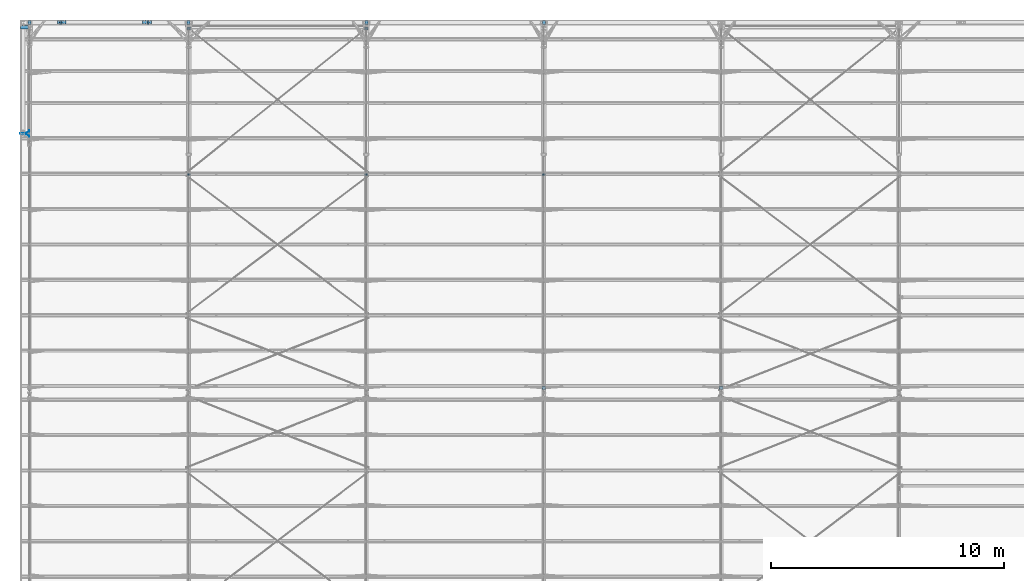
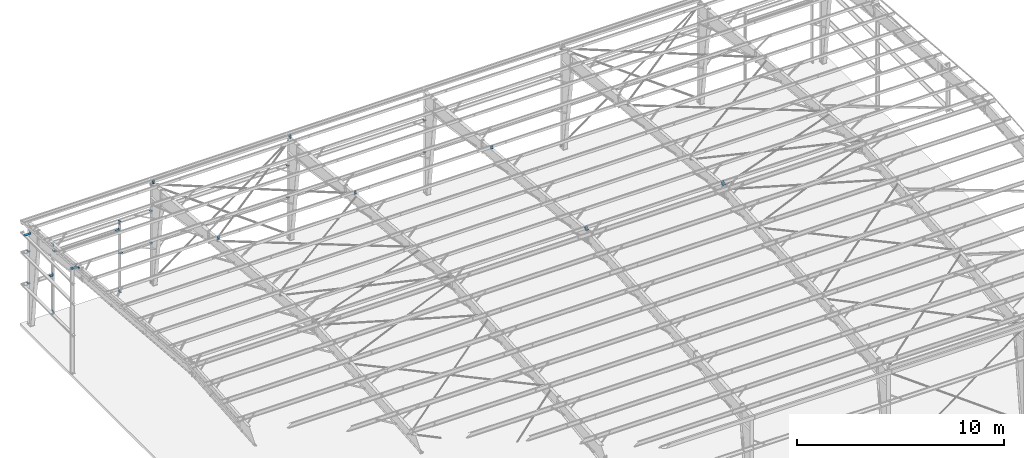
# One storey, part 183 of 185: 26 beams, 26 elements without a shape of their own.
"""IFC2X3 building model written with IfcOpenShell, lengths in millimetres."""

from ifc_helpers import new_model, si_unit, frame, origin_with_axes, place, context, subcontext, project, spatial, faceted_brep, material, type_object, element, aggregate, save


model = new_model("IFC2X3")

# Units and contexts
model_context = context("Model", 3, precision=1e-05, world=origin_with_axes())
body_context = subcontext(model_context, "Body", "Model", "MODEL_VIEW")
ifc_project = project(units=[si_unit("LENGTHUNIT", "METRE", prefix="MILLI"), si_unit("AREAUNIT", "SQUARE_METRE"), si_unit("VOLUMEUNIT", "CUBIC_METRE"), si_unit("MASSUNIT", "GRAM", prefix="KILO"), si_unit("TIMEUNIT", "SECOND"), si_unit("PLANEANGLEUNIT", "RADIAN"), si_unit("SOLIDANGLEUNIT", "STERADIAN"), si_unit("THERMODYNAMICTEMPERATUREUNIT", "DEGREE_CELSIUS"), si_unit("LUMINOUSINTENSITYUNIT", "LUMEN")], contexts=[model_context])

# Site, building, storey
site_placement = place(None, origin_with_axes())
site = spatial("IfcSite", under=ifc_project, at=site_placement, Name="Undefined", CompositionType="ELEMENT")
building_placement = place(site_placement, origin_with_axes())
building = spatial("IfcBuilding", under=site, at=building_placement, Name="Undefined", CompositionType="ELEMENT")
storey_placement = place(building_placement, origin_with_axes())
storey = spatial("IfcBuildingStorey", under=building, at=storey_placement, Name="Undefined", CompositionType="ELEMENT", Elevation=0.0)

# Assembly, beam
assembly_1_placement = place(storey_placement, origin_with_axes())
assembly_1 = element("IfcElementAssembly", 1, at=assembly_1_placement, inside=storey, Name="Steel Assembly", AssemblyPlace="NOTDEFINED", PredefinedType="RIGID_FRAME")
ifc_material = material(Name="STEEL/55")
beam_type_1 = type_object("IfcBeamType", Name="FL1/4\"X5\"", PredefinedType="NOTDEFINED")
beam_1_placement = place(assembly_1_placement, frame((11.9063, 27122.31685, 6158.65019549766), z_axis=(0.0, 0.0, 1.0), x_axis=(1.0, 0.0, 0.0)))
beam_1 = element("IfcBeam", 2, at=beam_1_placement, type_object=beam_type_1, material=ifc_material, Name="Special Clip", ObjectType="FL1/4\"X5\"", context=body_context, shape_type="Brep", body=[
    faceted_brep([(0.0, -3.17499999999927, -63.5), (0.0, -3.17499999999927, 63.5), (0.0, 3.17499999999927, 63.5), (0.0, 3.17499999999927, -63.5), (163.512496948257, 3.17499999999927, 63.5), (163.512496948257, 3.17499999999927, -63.5), (162.33626755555, -3.17499999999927, -63.5000000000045), (162.336267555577, -3.17499999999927, 63.4999999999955), (392.143432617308, -84.5343963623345, 63.4999999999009), (392.143432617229, -84.5343963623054, -63.5000000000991), (385.793432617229, -88.899589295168, -63.5000000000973), (385.793432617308, -88.8995892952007, 63.4999999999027), (392.143432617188, -138.112506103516, 63.5), (392.143432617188, -138.112506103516, -63.5), (385.793432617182, -138.112506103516, 63.5), (385.793432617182, -138.112506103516, -63.5)], [[[0, 1, 2, 3]], [[3, 2, 4, 5]], [[1, 0, 6, 7]], [[5, 4, 8, 9]], [[7, 6, 10, 11]], [[9, 8, 12, 13]], [[8, 4, 2, 1, 7, 11, 14, 12]], [[11, 10, 15, 14]], [[10, 6, 0, 3, 5, 9, 13, 15]], [[14, 15, 13, 12]]]),
])
aggregate(assembly_1, [beam_1])

assembly_2_placement = place(storey_placement, origin_with_axes())
assembly_2 = element("IfcElementAssembly", 3, at=assembly_2_placement, inside=storey, Name="Steel Assembly", AssemblyPlace="NOTDEFINED", PredefinedType="RIGID_FRAME")
beam_2_placement = place(assembly_2_placement, frame((11.9063, 27132.08315, 6158.65019549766), z_axis=(0.0, 0.0, 1.0), x_axis=(1.0, 0.0, 0.0)))
beam_2 = element("IfcBeam", 4, at=beam_2_placement, type_object=beam_type_1, material=ifc_material, Name="Special Clip", ObjectType="FL1/4\"X5\"", context=body_context, shape_type="Brep", body=[
    faceted_brep([(0.0, -3.17499999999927, -63.5), (0.0, -3.17499999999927, 63.5), (0.0, 3.17499999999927, 63.5), (0.0, 3.17499999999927, -63.5), (162.333783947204, 3.17499999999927, 63.5000000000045), (162.333783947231, 3.17499999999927, -63.4999999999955), (163.512496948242, -3.17499999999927, -63.5), (163.512496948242, -3.17499999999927, 63.5), (385.793432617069, 89.0944569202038, 63.5000000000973), (385.793432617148, 89.0944569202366, -63.4999999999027), (392.143432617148, 84.7327987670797, -63.4999999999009), (392.143432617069, 84.7327987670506, 63.5000000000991), (385.793432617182, 138.112506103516, 63.5), (385.793432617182, 138.112506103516, -63.5), (392.143432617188, 138.112506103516, 63.5), (392.143432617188, 138.112506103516, -63.5)], [[[0, 1, 2, 3]], [[3, 2, 4, 5]], [[1, 0, 6, 7]], [[5, 4, 8, 9]], [[7, 6, 10, 11]], [[9, 8, 12, 13]], [[8, 4, 2, 1, 7, 11, 14, 12]], [[11, 10, 15, 14]], [[10, 6, 0, 3, 5, 9, 13, 15]], [[14, 15, 13, 12]]]),
])
aggregate(assembly_2, [beam_2])

assembly_3_placement = place(storey_placement, origin_with_axes())
assembly_3 = element("IfcElementAssembly", 5, at=assembly_3_placement, inside=storey, Name="Steel Assembly", AssemblyPlace="NOTDEFINED", PredefinedType="RIGID_FRAME")
beam_type_2 = type_object("IfcBeamType", Name="PL1/8\"X5 7/8\"", PredefinedType="NOTDEFINED")
beam_3_placement = place(assembly_3_placement, frame((5453.0625, 31902.4, 184.15), z_axis=(0.0, -1.0, 0.0), x_axis=(0.0, 0.0, -1.0)))
beam_3 = element("IfcBeam", 6, at=beam_3_placement, type_object=beam_type_2, material=ifc_material, Name="UNIVERSAL AC-1 CLIP", ObjectType="PL1/8\"X5 7/8\"", context=body_context, shape_type="Brep", body=[
    faceted_brep([(0.0, -1.58749999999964, -74.6125), (0.0, -1.58749999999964, 74.6125), (0.0, 1.58749999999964, 74.6125), (0.0, 1.58749999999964, -74.6125), (180.974993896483, 1.58750000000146, 74.6124999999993), (180.974993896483, 1.58750000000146, -74.6124999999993), (184.149993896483, -1.58750000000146, -74.6124999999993), (184.149993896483, -1.58750000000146, 74.6124999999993), (180.974993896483, 74.6124969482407, 74.6124999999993), (180.974993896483, 74.6124969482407, -74.6124999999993), (184.149993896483, 74.6124969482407, 74.6124999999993), (184.149993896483, 74.6124969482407, -74.6124999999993)], [[[0, 1, 2, 3]], [[3, 2, 4, 5]], [[1, 0, 6, 7]], [[5, 4, 8, 9]], [[4, 2, 1, 7, 10, 8]], [[7, 6, 11, 10]], [[6, 0, 3, 5, 9, 11]], [[10, 11, 9, 8]]]),
])
aggregate(assembly_3, [beam_3])

assembly_4_placement = place(storey_placement, origin_with_axes())
assembly_4 = element("IfcElementAssembly", 7, at=assembly_4_placement, inside=storey, Name="Steel Assembly", AssemblyPlace="NOTDEFINED", PredefinedType="RIGID_FRAME")
beam_4_placement = place(assembly_4_placement, frame((1785.9375, 31902.4, 184.15), z_axis=(0.0, -1.0, 0.0), x_axis=(0.0, 0.0, -1.0)))
beam_4 = element("IfcBeam", 8, at=beam_4_placement, type_object=beam_type_2, material=ifc_material, Name="UNIVERSAL AC-1 CLIP", ObjectType="PL1/8\"X5 7/8\"", context=body_context, shape_type="Brep", body=[
    faceted_brep([(0.0, -1.58749999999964, -74.6125), (0.0, -1.58749999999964, 74.6125), (0.0, 1.58749999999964, 74.6125), (0.0, 1.58749999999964, -74.6125), (184.149993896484, 1.58749999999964, 74.6125), (184.149993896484, 1.58749999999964, -74.6125), (180.974993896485, -1.58749999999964, -74.6125), (180.974993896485, -1.58749999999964, 74.6125), (184.149993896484, -74.6124969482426, 74.6125), (184.149993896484, -74.6124969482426, -74.6125), (180.974993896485, -74.6124969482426, 74.6125), (180.974993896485, -74.6124969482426, -74.6125)], [[[0, 1, 2, 3]], [[3, 2, 4, 5]], [[1, 0, 6, 7]], [[5, 4, 8, 9]], [[4, 2, 1, 7, 10, 8]], [[7, 6, 11, 10]], [[6, 0, 3, 5, 9, 11]], [[10, 11, 9, 8]]]),
])
aggregate(assembly_4, [beam_4])

assembly_5_placement = place(storey_placement, origin_with_axes())
assembly_5 = element("IfcElementAssembly", 9, at=assembly_5_placement, inside=storey, Name="Steel Assembly", AssemblyPlace="NOTDEFINED", PredefinedType="RIGID_FRAME")
beam_5_placement = place(assembly_5_placement, frame((1785.93249969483, 31902.4, 3979.85999996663), z_axis=(0.0, 1.0, 0.0), x_axis=(0.0, 0.0, 1.0)))
beam_5 = element("IfcBeam", 10, at=beam_5_placement, type_object=beam_type_2, material=ifc_material, Name="UNIVERSAL AC-1 CLIP", ObjectType="PL1/8\"X5 7/8\"", context=body_context, shape_type="Brep", body=[
    faceted_brep([(0.0, -1.58749999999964, -74.6125), (0.0, -1.58749999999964, 74.6125), (0.0, 1.58749999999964, 74.6125), (0.0, 1.58749999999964, -74.6125), (184.149993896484, 1.58749999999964, 74.6125), (184.149993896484, 1.58749999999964, -74.6125), (180.974993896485, -1.58749999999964, -74.6125), (180.974993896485, -1.58749999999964, 74.6125), (184.149993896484, -74.6124969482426, 74.6125), (184.149993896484, -74.6124969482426, -74.6125), (180.974993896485, -74.6124969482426, 74.6125), (180.974993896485, -74.6124969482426, -74.6125)], [[[0, 1, 2, 3]], [[3, 2, 4, 5]], [[1, 0, 6, 7]], [[5, 4, 8, 9]], [[4, 2, 1, 7, 10, 8]], [[7, 6, 11, 10]], [[6, 0, 3, 5, 9, 11]], [[10, 11, 9, 8]]]),
])
aggregate(assembly_5, [beam_5])

assembly_6_placement = place(storey_placement, origin_with_axes())
assembly_6 = element("IfcElementAssembly", 11, at=assembly_6_placement, inside=storey, Name="Steel Assembly", AssemblyPlace="NOTDEFINED", PredefinedType="RIGID_FRAME")
beam_6_placement = place(assembly_6_placement, frame((1974.85, 31902.4, 3662.36750030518), z_axis=(0.0, -1.0, 0.0), x_axis=(-1.0, 0.0, 0.0)))
beam_6 = element("IfcBeam", 12, at=beam_6_placement, type_object=beam_type_2, material=ifc_material, Name="UNIVERSAL AC-1 CLIP", ObjectType="PL1/8\"X5 7/8\"", context=body_context, shape_type="Brep", body=[
    faceted_brep([(0.0, -1.58749999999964, -74.6125), (0.0, -1.58749999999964, 74.6125), (0.0, 1.58749999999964, 74.6125), (0.0, 1.58749999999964, -74.6125), (184.149993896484, 1.58749999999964, 74.6125), (184.149993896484, 1.58749999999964, -74.6125), (180.974993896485, -1.58749999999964, -74.6125), (180.974993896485, -1.58749999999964, 74.6125), (184.149993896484, -74.6124969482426, 74.6125), (184.149993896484, -74.6124969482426, -74.6125), (180.974993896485, -74.6124969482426, 74.6125), (180.974993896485, -74.6124969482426, -74.6125)], [[[0, 1, 2, 3]], [[3, 2, 4, 5]], [[1, 0, 6, 7]], [[5, 4, 8, 9]], [[4, 2, 1, 7, 10, 8]], [[7, 6, 11, 10]], [[6, 0, 3, 5, 9, 11]], [[10, 11, 9, 8]]]),
])
aggregate(assembly_6, [beam_6])

assembly_7_placement = place(storey_placement, origin_with_axes())
assembly_7 = element("IfcElementAssembly", 13, at=assembly_7_placement, inside=storey, Name="Steel Assembly", AssemblyPlace="NOTDEFINED", PredefinedType="RIGID_FRAME")
beam_7_placement = place(assembly_7_placement, frame((1603.36999969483, 31902.4, 2289.17750003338), z_axis=(0.0, 1.0, 0.0), x_axis=(1.0, 0.0, 0.0)))
beam_7 = element("IfcBeam", 14, at=beam_7_placement, type_object=beam_type_2, material=ifc_material, Name="UNIVERSAL AC-1 CLIP", ObjectType="PL1/8\"X5 7/8\"", context=body_context, shape_type="Brep", body=[
    faceted_brep([(0.0, -1.58749999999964, -74.6125), (0.0, -1.58749999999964, 74.6125), (0.0, 1.58749999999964, 74.6125), (0.0, 1.58749999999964, -74.6125), (184.149993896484, 1.58749999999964, 74.6125), (184.149993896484, 1.58749999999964, -74.6125), (180.974993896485, -1.58749999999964, -74.6125), (180.974993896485, -1.58749999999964, 74.6125), (184.149993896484, -74.6124969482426, 74.6125), (184.149993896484, -74.6124969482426, -74.6125), (180.974993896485, -74.6124969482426, 74.6125), (180.974993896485, -74.6124969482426, -74.6125)], [[[0, 1, 2, 3]], [[3, 2, 4, 5]], [[1, 0, 6, 7]], [[5, 4, 8, 9]], [[4, 2, 1, 7, 10, 8]], [[7, 6, 11, 10]], [[6, 0, 3, 5, 9, 11]], [[10, 11, 9, 8]]]),
])
aggregate(assembly_7, [beam_7])

assembly_8_placement = place(storey_placement, origin_with_axes())
assembly_8 = element("IfcElementAssembly", 15, at=assembly_8_placement, inside=storey, Name="Steel Assembly", AssemblyPlace="NOTDEFINED", PredefinedType="RIGID_FRAME")
beam_8_placement = place(assembly_8_placement, frame((5635.63000030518, 31902.4, 2289.17750003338), z_axis=(0.0, -1.0, 0.0), x_axis=(-1.0, 0.0, 0.0)))
beam_8 = element("IfcBeam", 16, at=beam_8_placement, type_object=beam_type_2, material=ifc_material, Name="UNIVERSAL AC-1 CLIP", ObjectType="PL1/8\"X5 7/8\"", context=body_context, shape_type="Brep", body=[
    faceted_brep([(0.0, -1.58749999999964, -74.6125), (0.0, -1.58749999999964, 74.6125), (0.0, 1.58749999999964, 74.6125), (0.0, 1.58749999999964, -74.6125), (184.149993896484, 1.58749999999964, 74.6125), (184.149993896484, 1.58749999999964, -74.6125), (180.974993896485, -1.58749999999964, -74.6125), (180.974993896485, -1.58749999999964, 74.6125), (184.149993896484, -74.6124969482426, 74.6125), (184.149993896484, -74.6124969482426, -74.6125), (180.974993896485, -74.6124969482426, 74.6125), (180.974993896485, -74.6124969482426, -74.6125)], [[[0, 1, 2, 3]], [[3, 2, 4, 5]], [[1, 0, 6, 7]], [[5, 4, 8, 9]], [[4, 2, 1, 7, 10, 8]], [[7, 6, 11, 10]], [[6, 0, 3, 5, 9, 11]], [[10, 11, 9, 8]]]),
])
aggregate(assembly_8, [beam_8])

assembly_9_placement = place(storey_placement, origin_with_axes())
assembly_9 = element("IfcElementAssembly", 17, at=assembly_9_placement, inside=storey, Name="Steel Assembly", AssemblyPlace="NOTDEFINED", PredefinedType="RIGID_FRAME")
beam_9_placement = place(assembly_9_placement, frame((5264.15, 31902.4, 3662.36750030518), z_axis=(0.0, 1.0, 0.0), x_axis=(1.0, 0.0, 0.0)))
beam_9 = element("IfcBeam", 18, at=beam_9_placement, type_object=beam_type_2, material=ifc_material, Name="UNIVERSAL AC-1 CLIP", ObjectType="PL1/8\"X5 7/8\"", context=body_context, shape_type="Brep", body=[
    faceted_brep([(0.0, -1.58749999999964, -74.6125), (0.0, -1.58749999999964, 74.6125), (0.0, 1.58749999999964, 74.6125), (0.0, 1.58749999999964, -74.6125), (184.149993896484, 1.58749999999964, 74.6125), (184.149993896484, 1.58749999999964, -74.6125), (180.974993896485, -1.58749999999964, -74.6125), (180.974993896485, -1.58749999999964, 74.6125), (184.149993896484, -74.6124969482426, 74.6125), (184.149993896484, -74.6124969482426, -74.6125), (180.974993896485, -74.6124969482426, 74.6125), (180.974993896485, -74.6124969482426, -74.6125)], [[[0, 1, 2, 3]], [[3, 2, 4, 5]], [[1, 0, 6, 7]], [[5, 4, 8, 9]], [[4, 2, 1, 7, 10, 8]], [[7, 6, 11, 10]], [[6, 0, 3, 5, 9, 11]], [[10, 11, 9, 8]]]),
])
aggregate(assembly_9, [beam_9])

assembly_10_placement = place(storey_placement, origin_with_axes())
assembly_10 = element("IfcElementAssembly", 19, at=assembly_10_placement, inside=storey, Name="Steel Assembly", AssemblyPlace="NOTDEFINED", PredefinedType="RIGID_FRAME")
beam_10_placement = place(assembly_10_placement, frame((5453.06750030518, 31902.4, 3979.85999996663), z_axis=(0.0, -1.0, 0.0), x_axis=(0.0, 0.0, 1.0)))
beam_10 = element("IfcBeam", 20, at=beam_10_placement, type_object=beam_type_2, material=ifc_material, Name="UNIVERSAL AC-1 CLIP", ObjectType="PL1/8\"X5 7/8\"", context=body_context, shape_type="Brep", body=[
    faceted_brep([(0.0, -1.58749999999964, -74.6125), (0.0, -1.58749999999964, 74.6125), (0.0, 1.58749999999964, 74.6125), (0.0, 1.58749999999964, -74.6125), (184.149993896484, 1.58749999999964, 74.6125), (184.149993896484, 1.58749999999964, -74.6125), (180.974993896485, -1.58749999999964, -74.6125), (180.974993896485, -1.58749999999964, 74.6125), (184.149993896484, -74.6124969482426, 74.6125), (184.149993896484, -74.6124969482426, -74.6125), (180.974993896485, -74.6124969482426, 74.6125), (180.974993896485, -74.6124969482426, -74.6125)], [[[0, 1, 2, 3]], [[3, 2, 4, 5]], [[1, 0, 6, 7]], [[5, 4, 8, 9]], [[4, 2, 1, 7, 10, 8]], [[7, 6, 11, 10]], [[6, 0, 3, 5, 9, 11]], [[10, 11, 9, 8]]]),
])
aggregate(assembly_10, [beam_10])

assembly_11_placement = place(storey_placement, origin_with_axes())
assembly_11 = element("IfcElementAssembly", 21, at=assembly_11_placement, inside=storey, Name="Steel Assembly", AssemblyPlace="NOTDEFINED", PredefinedType="RIGID_FRAME")
beam_type_3 = type_object("IfcBeamType", Name="FL3/16\"X5\"", PredefinedType="NOTDEFINED")
beam_11_placement = place(assembly_11_placement, frame((406.4, 31803.18125, 2362.2), z_axis=(1.0, 0.0, 0.0), x_axis=(0.0, 0.0, -1.0)))
beam_11 = element("IfcBeam", 22, at=beam_11_placement, type_object=beam_type_3, material=ifc_material, Name="UNIVERSAL AC-1 CLIP", ObjectType="FL3/16\"X5\"", context=body_context, shape_type="Brep", body=[
    faceted_brep([(0.0, -2.38124999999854, -63.5), (0.0, -2.38124999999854, 63.5), (0.0, 2.38124999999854, 63.5), (0.0, 2.38124999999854, -63.5), (71.4374969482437, 2.38124999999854, 63.5), (71.4374969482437, 2.38124999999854, -63.5), (76.1999969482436, -2.38124999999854, -63.5), (76.1999969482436, -2.38124999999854, 63.5), (71.4374969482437, 181.768743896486, 63.5), (71.4374969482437, 181.768743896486, -63.5), (76.1999969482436, 181.768743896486, 63.5), (76.1999969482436, 181.768743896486, -63.5)], [[[0, 1, 2, 3]], [[3, 2, 4, 5]], [[1, 0, 6, 7]], [[5, 4, 8, 9]], [[4, 2, 1, 7, 10, 8]], [[7, 6, 11, 10]], [[6, 0, 3, 5, 9, 11]], [[10, 11, 9, 8]]]),
])
aggregate(assembly_11, [beam_11])

assembly_12_placement = place(storey_placement, origin_with_axes())
assembly_12 = element("IfcElementAssembly", 23, at=assembly_12_placement, inside=storey, Name="Steel Assembly", AssemblyPlace="NOTDEFINED", PredefinedType="RIGID_FRAME")
beam_12_placement = place(assembly_12_placement, frame((7238.99999999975, 25331.8752214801, 6450.49431404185), z_axis=(-1.0, 0.0, 0.0), x_axis=(0.0, 0.996545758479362, -0.0830454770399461)))
beam_12 = element("IfcBeam", 24, at=beam_12_placement, type_object=beam_type_3, material=ifc_material, Name="UNIVERSAL AC-1 CLIP", ObjectType="FL3/16\"X5\"", context=body_context, shape_type="Brep", body=[
    faceted_brep([(1.03973434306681e-08, -2.3799999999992, -63.5), (1.03973434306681e-08, -2.3799999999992, 63.5), (-1.0393705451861e-08, 2.38000000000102, 63.5), (-1.0393705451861e-08, 2.38000000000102, -63.5), (69.8499976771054, 2.38000030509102, 63.5), (69.8499976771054, 2.38000030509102, -63.5), (65.0899976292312, -2.37999971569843, -63.5), (65.0899976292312, -2.37999971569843, 63.5), (69.8499958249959, -181.770005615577, 63.5), (69.8499958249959, -181.770005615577, -63.5), (65.0899958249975, -181.770005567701, 63.5), (65.0899958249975, -181.770005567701, -63.5)], [[[0, 1, 2, 3]], [[3, 2, 4, 5]], [[1, 0, 6, 7]], [[5, 4, 8, 9]], [[4, 2, 1, 7, 10, 8]], [[7, 6, 11, 10]], [[6, 0, 3, 5, 9, 11]], [[10, 11, 9, 8]]]),
])
aggregate(assembly_12, [beam_12])

assembly_13_placement = place(storey_placement, origin_with_axes())
assembly_13 = element("IfcElementAssembly", 25, at=assembly_13_placement, inside=storey, Name="Steel Assembly", AssemblyPlace="NOTDEFINED", PredefinedType="RIGID_FRAME")
beam_13_placement = place(assembly_13_placement, frame((14859.0000000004, 25331.875221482, 6450.49431404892), z_axis=(-1.0, 0.0, 0.0), x_axis=(0.0, 0.996545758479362, -0.0830454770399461)))
beam_13 = element("IfcBeam", 26, at=beam_13_placement, type_object=beam_type_3, material=ifc_material, Name="UNIVERSAL AC-1 CLIP", ObjectType="FL3/16\"X5\"", context=body_context, shape_type="Brep", body=[
    faceted_brep([(1.03973434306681e-08, -2.3799999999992, -63.5), (1.03973434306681e-08, -2.3799999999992, 63.5), (-1.0393705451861e-08, 2.38000000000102, 63.5), (-1.0393705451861e-08, 2.38000000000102, -63.5), (69.8499976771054, 2.38000030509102, 63.5), (69.8499976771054, 2.38000030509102, -63.5), (65.0899976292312, -2.37999971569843, -63.5), (65.0899976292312, -2.37999971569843, 63.5), (69.8499958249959, -181.770005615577, 63.5), (69.8499958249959, -181.770005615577, -63.5), (65.0899958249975, -181.770005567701, 63.5), (65.0899958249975, -181.770005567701, -63.5)], [[[0, 1, 2, 3]], [[3, 2, 4, 5]], [[1, 0, 6, 7]], [[5, 4, 8, 9]], [[4, 2, 1, 7, 10, 8]], [[7, 6, 11, 10]], [[6, 0, 3, 5, 9, 11]], [[10, 11, 9, 8]]]),
])
aggregate(assembly_13, [beam_13])

assembly_14_placement = place(storey_placement, origin_with_axes())
assembly_14 = element("IfcElementAssembly", 27, at=assembly_14_placement, inside=storey, Name="Steel Assembly", AssemblyPlace="NOTDEFINED", PredefinedType="RIGID_FRAME")
beam_14_placement = place(assembly_14_placement, frame((22478.9999999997, 25331.8752214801, 6450.49431404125), z_axis=(-1.0, 0.0, 0.0), x_axis=(0.0, 0.996545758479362, -0.0830454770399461)))
beam_14 = element("IfcBeam", 28, at=beam_14_placement, type_object=beam_type_3, material=ifc_material, Name="UNIVERSAL AC-1 CLIP", ObjectType="FL3/16\"X5\"", context=body_context, shape_type="Brep", body=[
    faceted_brep([(1.03973434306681e-08, -2.3799999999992, -63.5), (1.03973434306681e-08, -2.3799999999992, 63.5), (-1.0393705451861e-08, 2.38000000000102, 63.5), (-1.0393705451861e-08, 2.38000000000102, -63.5), (69.8499976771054, 2.38000030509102, 63.5), (69.8499976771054, 2.38000030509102, -63.5), (65.0899976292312, -2.37999971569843, -63.5), (65.0899976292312, -2.37999971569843, 63.5), (69.8499958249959, -181.770005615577, 63.5), (69.8499958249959, -181.770005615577, -63.5), (65.0899958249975, -181.770005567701, 63.5), (65.0899958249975, -181.770005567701, -63.5)], [[[0, 1, 2, 3]], [[3, 2, 4, 5]], [[1, 0, 6, 7]], [[5, 4, 8, 9]], [[4, 2, 1, 7, 10, 8]], [[7, 6, 11, 10]], [[6, 0, 3, 5, 9, 11]], [[10, 11, 9, 8]]]),
])
aggregate(assembly_14, [beam_14])

assembly_15_placement = place(storey_placement, origin_with_axes())
assembly_15 = element("IfcElementAssembly", 29, at=assembly_15_placement, inside=storey, Name="Steel Assembly", AssemblyPlace="NOTDEFINED", PredefinedType="RIGID_FRAME")
beam_15_placement = place(assembly_15_placement, frame((406.4, 31803.18125, 4241.8), z_axis=(1.0, 0.0, 0.0), x_axis=(0.0, 0.0, -1.0)))
beam_15 = element("IfcBeam", 30, at=beam_15_placement, type_object=beam_type_3, material=ifc_material, Name="UNIVERSAL AC-1 CLIP", ObjectType="FL3/16\"X5\"", context=body_context, shape_type="Brep", body=[
    faceted_brep([(0.0, -2.38124999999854, -63.5), (0.0, -2.38124999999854, 63.5), (0.0, 2.38124999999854, 63.5), (0.0, 2.38124999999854, -63.5), (71.4374969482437, 2.38124999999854, 63.5), (71.4374969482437, 2.38124999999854, -63.5), (76.1999969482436, -2.38124999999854, -63.5), (76.1999969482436, -2.38124999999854, 63.5), (71.4374969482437, 181.768743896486, 63.5), (71.4374969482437, 181.768743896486, -63.5), (76.1999969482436, 181.768743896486, 63.5), (76.1999969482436, 181.768743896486, -63.5)], [[[0, 1, 2, 3]], [[3, 2, 4, 5]], [[1, 0, 6, 7]], [[5, 4, 8, 9]], [[4, 2, 1, 7, 10, 8]], [[7, 6, 11, 10]], [[6, 0, 3, 5, 9, 11]], [[10, 11, 9, 8]]]),
])
aggregate(assembly_15, [beam_15])

assembly_16_placement = place(storey_placement, origin_with_axes())
assembly_16 = element("IfcElementAssembly", 31, at=assembly_16_placement, inside=storey, Name="Steel Assembly", AssemblyPlace="NOTDEFINED", PredefinedType="RIGID_FRAME")
beam_16_placement = place(assembly_16_placement, frame((7239.0, 31803.18125, 2355.85), z_axis=(-1.0, 0.0, 0.0), x_axis=(0.0, 0.0, -1.0)))
beam_16 = element("IfcBeam", 32, at=beam_16_placement, type_object=beam_type_3, material=ifc_material, Name="UNIVERSAL AC-1 CLIP", ObjectType="FL3/16\"X5\"", context=body_context, shape_type="Brep", body=[
    faceted_brep([(0.0, -2.38124999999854, -63.5), (0.0, -2.38124999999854, 63.5), (0.0, 2.38124999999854, 63.5), (0.0, 2.38124999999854, -63.5), (69.8499984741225, 2.38124999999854, 63.5), (69.8499984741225, 2.38124999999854, -63.5), (65.0874984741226, -2.38124999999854, -63.5), (65.0874984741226, -2.38124999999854, 63.5), (69.8499984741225, -181.768743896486, 63.5), (69.8499984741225, -181.768743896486, -63.5), (65.0874984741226, -181.768743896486, 63.5), (65.0874984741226, -181.768743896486, -63.5)], [[[0, 1, 2, 3]], [[3, 2, 4, 5]], [[1, 0, 6, 7]], [[5, 4, 8, 9]], [[4, 2, 1, 7, 10, 8]], [[7, 6, 11, 10]], [[6, 0, 3, 5, 9, 11]], [[10, 11, 9, 8]]]),
])
aggregate(assembly_16, [beam_16])

assembly_17_placement = place(storey_placement, origin_with_axes())
assembly_17 = element("IfcElementAssembly", 33, at=assembly_17_placement, inside=storey, Name="Steel Assembly", AssemblyPlace="NOTDEFINED", PredefinedType="RIGID_FRAME")
beam_17_placement = place(assembly_17_placement, frame((7239.0, 31803.18125, 4235.45), z_axis=(-1.0, 0.0, 0.0), x_axis=(0.0, 0.0, -1.0)))
beam_17 = element("IfcBeam", 34, at=beam_17_placement, type_object=beam_type_3, material=ifc_material, Name="UNIVERSAL AC-1 CLIP", ObjectType="FL3/16\"X5\"", context=body_context, shape_type="Brep", body=[
    faceted_brep([(0.0, -2.38124999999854, -63.5), (0.0, -2.38124999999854, 63.5), (0.0, 2.38124999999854, 63.5), (0.0, 2.38124999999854, -63.5), (69.8499984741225, 2.38124999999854, 63.5), (69.8499984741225, 2.38124999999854, -63.5), (65.0874984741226, -2.38124999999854, -63.5), (65.0874984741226, -2.38124999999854, 63.5), (69.8499984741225, -181.768743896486, 63.5), (69.8499984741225, -181.768743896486, -63.5), (65.0874984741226, -181.768743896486, 63.5), (65.0874984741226, -181.768743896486, -63.5)], [[[0, 1, 2, 3]], [[3, 2, 4, 5]], [[1, 0, 6, 7]], [[5, 4, 8, 9]], [[4, 2, 1, 7, 10, 8]], [[7, 6, 11, 10]], [[6, 0, 3, 5, 9, 11]], [[10, 11, 9, 8]]]),
])
aggregate(assembly_17, [beam_17])

assembly_18_placement = place(storey_placement, origin_with_axes())
assembly_18 = element("IfcElementAssembly", 35, at=assembly_18_placement, inside=storey, Name="Steel Assembly", AssemblyPlace="NOTDEFINED", PredefinedType="RIGID_FRAME")
beam_18_placement = place(assembly_18_placement, frame((14859.0, 31803.18125, 4235.45), z_axis=(-1.0, 0.0, 0.0), x_axis=(0.0, 0.0, -1.0)))
beam_18 = element("IfcBeam", 36, at=beam_18_placement, type_object=beam_type_3, material=ifc_material, Name="UNIVERSAL AC-1 CLIP", ObjectType="FL3/16\"X5\"", context=body_context, shape_type="Brep", body=[
    faceted_brep([(0.0, -2.38124999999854, -63.5), (0.0, -2.38124999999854, 63.5), (0.0, 2.38124999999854, 63.5), (0.0, 2.38124999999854, -63.5), (69.8499984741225, 2.38124999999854, 63.5), (69.8499984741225, 2.38124999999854, -63.5), (65.0874984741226, -2.38124999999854, -63.5), (65.0874984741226, -2.38124999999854, 63.5), (69.8499984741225, -181.768743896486, 63.5), (69.8499984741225, -181.768743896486, -63.5), (65.0874984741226, -181.768743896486, 63.5), (65.0874984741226, -181.768743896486, -63.5)], [[[0, 1, 2, 3]], [[3, 2, 4, 5]], [[1, 0, 6, 7]], [[5, 4, 8, 9]], [[4, 2, 1, 7, 10, 8]], [[7, 6, 11, 10]], [[6, 0, 3, 5, 9, 11]], [[10, 11, 9, 8]]]),
])
aggregate(assembly_18, [beam_18])

assembly_19_placement = place(storey_placement, origin_with_axes())
assembly_19 = element("IfcElementAssembly", 37, at=assembly_19_placement, inside=storey, Name="Steel Assembly", AssemblyPlace="NOTDEFINED", PredefinedType="RIGID_FRAME")
beam_19_placement = place(assembly_19_placement, frame((14859.0, 31803.18125, 2355.85), z_axis=(-1.0, 0.0, 0.0), x_axis=(0.0, 0.0, -1.0)))
beam_19 = element("IfcBeam", 38, at=beam_19_placement, type_object=beam_type_3, material=ifc_material, Name="UNIVERSAL AC-1 CLIP", ObjectType="FL3/16\"X5\"", context=body_context, shape_type="Brep", body=[
    faceted_brep([(0.0, -2.38124999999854, -63.5), (0.0, -2.38124999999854, 63.5), (0.0, 2.38124999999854, 63.5), (0.0, 2.38124999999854, -63.5), (69.8499984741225, 2.38124999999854, 63.5), (69.8499984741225, 2.38124999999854, -63.5), (65.0874984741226, -2.38124999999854, -63.5), (65.0874984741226, -2.38124999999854, 63.5), (69.8499984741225, -181.768743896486, 63.5), (69.8499984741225, -181.768743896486, -63.5), (65.0874984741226, -181.768743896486, 63.5), (65.0874984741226, -181.768743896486, -63.5)], [[[0, 1, 2, 3]], [[3, 2, 4, 5]], [[1, 0, 6, 7]], [[5, 4, 8, 9]], [[4, 2, 1, 7, 10, 8]], [[7, 6, 11, 10]], [[6, 0, 3, 5, 9, 11]], [[10, 11, 9, 8]]]),
])
aggregate(assembly_19, [beam_19])

assembly_20_placement = place(storey_placement, origin_with_axes())
assembly_20 = element("IfcElementAssembly", 39, at=assembly_20_placement, inside=storey, Name="Steel Assembly", AssemblyPlace="NOTDEFINED", PredefinedType="RIGID_FRAME")
beam_20_placement = place(assembly_20_placement, frame((22479.0, 31803.18125, 2355.85), z_axis=(-1.0, 0.0, 0.0), x_axis=(0.0, 0.0, -1.0)))
beam_20 = element("IfcBeam", 40, at=beam_20_placement, type_object=beam_type_3, material=ifc_material, Name="UNIVERSAL AC-1 CLIP", ObjectType="FL3/16\"X5\"", context=body_context, shape_type="Brep", body=[
    faceted_brep([(0.0, -2.38124999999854, -63.5), (0.0, -2.38124999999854, 63.5), (0.0, 2.38124999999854, 63.5), (0.0, 2.38124999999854, -63.5), (69.8499984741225, 2.38124999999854, 63.5), (69.8499984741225, 2.38124999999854, -63.5), (65.0874984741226, -2.38124999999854, -63.5), (65.0874984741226, -2.38124999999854, 63.5), (69.8499984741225, -181.768743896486, 63.5), (69.8499984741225, -181.768743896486, -63.5), (65.0874984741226, -181.768743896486, 63.5), (65.0874984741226, -181.768743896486, -63.5)], [[[0, 1, 2, 3]], [[3, 2, 4, 5]], [[1, 0, 6, 7]], [[5, 4, 8, 9]], [[4, 2, 1, 7, 10, 8]], [[7, 6, 11, 10]], [[6, 0, 3, 5, 9, 11]], [[10, 11, 9, 8]]]),
])
aggregate(assembly_20, [beam_20])

assembly_21_placement = place(storey_placement, origin_with_axes())
assembly_21 = element("IfcElementAssembly", 41, at=assembly_21_placement, inside=storey, Name="Steel Assembly", AssemblyPlace="NOTDEFINED", PredefinedType="RIGID_FRAME")
beam_21_placement = place(assembly_21_placement, frame((22479.0, 31803.18125, 4235.45), z_axis=(-1.0, 0.0, 0.0), x_axis=(0.0, 0.0, -1.0)))
beam_21 = element("IfcBeam", 42, at=beam_21_placement, type_object=beam_type_3, material=ifc_material, Name="UNIVERSAL AC-1 CLIP", ObjectType="FL3/16\"X5\"", context=body_context, shape_type="Brep", body=[
    faceted_brep([(0.0, -2.38124999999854, -63.5), (0.0, -2.38124999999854, 63.5), (0.0, 2.38124999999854, 63.5), (0.0, 2.38124999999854, -63.5), (69.8499984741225, 2.38124999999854, 63.5), (69.8499984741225, 2.38124999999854, -63.5), (65.0874984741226, -2.38124999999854, -63.5), (65.0874984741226, -2.38124999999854, 63.5), (69.8499984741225, -181.768743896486, 63.5), (69.8499984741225, -181.768743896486, -63.5), (65.0874984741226, -181.768743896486, 63.5), (65.0874984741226, -181.768743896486, -63.5)], [[[0, 1, 2, 3]], [[3, 2, 4, 5]], [[1, 0, 6, 7]], [[5, 4, 8, 9]], [[4, 2, 1, 7, 10, 8]], [[7, 6, 11, 10]], [[6, 0, 3, 5, 9, 11]], [[10, 11, 9, 8]]]),
])
aggregate(assembly_21, [beam_21])

assembly_22_placement = place(storey_placement, origin_with_axes())
assembly_22 = element("IfcElementAssembly", 43, at=assembly_22_placement, inside=storey, Name="Steel Assembly", AssemblyPlace="NOTDEFINED", PredefinedType="RIGID_FRAME")
beam_22_placement = place(assembly_22_placement, frame((14859.0000000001, 31614.0623109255, 5926.97872220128), z_axis=(-1.0, 0.0, 0.0), x_axis=(0.0, 0.996545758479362, -0.0830454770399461)))
beam_22 = element("IfcBeam", 44, at=beam_22_placement, type_object=beam_type_3, material=ifc_material, Name="UNIVERSAL AC-1 CLIP", ObjectType="FL3/16\"X5\"", context=body_context, shape_type="Brep", body=[
    faceted_brep([(1.03973434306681e-08, -2.3799999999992, -63.5), (1.03973434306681e-08, -2.3799999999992, 63.5), (-1.0393705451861e-08, 2.38000000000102, 63.5), (-1.0393705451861e-08, 2.38000000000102, -63.5), (69.8499976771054, 2.38000030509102, 63.5), (69.8499976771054, 2.38000030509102, -63.5), (65.0899976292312, -2.37999971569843, -63.5), (65.0899976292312, -2.37999971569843, 63.5), (69.8499958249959, -181.770005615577, 63.5), (69.8499958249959, -181.770005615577, -63.5), (65.0899958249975, -181.770005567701, 63.5), (65.0899958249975, -181.770005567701, -63.5)], [[[0, 1, 2, 3]], [[3, 2, 4, 5]], [[1, 0, 6, 7]], [[5, 4, 8, 9]], [[4, 2, 1, 7, 10, 8]], [[7, 6, 11, 10]], [[6, 0, 3, 5, 9, 11]], [[10, 11, 9, 8]]]),
])
aggregate(assembly_22, [beam_22])

assembly_23_placement = place(storey_placement, origin_with_axes())
assembly_23 = element("IfcElementAssembly", 45, at=assembly_23_placement, inside=storey, Name="Steel Assembly", AssemblyPlace="NOTDEFINED", PredefinedType="RIGID_FRAME")
beam_23_placement = place(assembly_23_placement, frame((7238.99999999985, 31614.0623109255, 5926.97872220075), z_axis=(1.0, 0.0, 0.0), x_axis=(0.0, 0.996545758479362, -0.0830454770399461)))
beam_23 = element("IfcBeam", 46, at=beam_23_placement, type_object=beam_type_3, material=ifc_material, Name="UNIVERSAL AC-1 CLIP", ObjectType="FL3/16\"X5\"", context=body_context, shape_type="Brep", body=[
    faceted_brep([(1.03973434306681e-08, -2.3799999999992, -63.5), (1.03973434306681e-08, -2.3799999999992, 63.5), (-1.0393705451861e-08, 2.38000000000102, 63.5), (-1.0393705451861e-08, 2.38000000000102, -63.5), (65.0899976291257, 2.37999971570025, 63.5), (65.0899976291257, 2.37999971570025, -63.5), (69.8499976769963, -2.38000030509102, -63.5), (69.8499976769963, -2.38000030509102, 63.5), (65.0899958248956, 181.77000556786, 63.5), (65.0899958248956, 181.77000556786, -63.5), (69.849995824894, 181.770005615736, 63.5), (69.849995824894, 181.770005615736, -63.5)], [[[0, 1, 2, 3]], [[3, 2, 4, 5]], [[1, 0, 6, 7]], [[5, 4, 8, 9]], [[4, 2, 1, 7, 10, 8]], [[7, 6, 11, 10]], [[6, 0, 3, 5, 9, 11]], [[10, 11, 9, 8]]]),
])
aggregate(assembly_23, [beam_23])

assembly_24_placement = place(storey_placement, origin_with_axes())
assembly_24 = element("IfcElementAssembly", 47, at=assembly_24_placement, inside=storey, Name="Steel Assembly", AssemblyPlace="NOTDEFINED", PredefinedType="RIGID_FRAME")
beam_type_4 = type_object("IfcBeamType", Name="FL1/4\"X6\"", PredefinedType="NOTDEFINED")
beam_24_placement = place(assembly_24_placement, frame((22479.0000000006, 16149.9181081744, 7216.45516396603), z_axis=(-1.0, 0.0, 0.0), x_axis=(0.0, 0.996545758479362, -0.0830454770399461)))
beam_24 = element("IfcBeam", 48, at=beam_24_placement, type_object=beam_type_4, material=ifc_material, Name="ANTI-ROLL CL 8 OR 9.5", ObjectType="FL1/4\"X6\"", context=body_context, shape_type="Brep", body=[
    faceted_brep([(1.38752511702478e-08, -3.17500000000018, -76.1999999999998), (1.38752511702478e-08, -3.17500000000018, 76.1999999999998), (-1.38788891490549e-08, 3.17499999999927, 76.1999999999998), (-1.38788891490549e-08, 3.17499999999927, -76.1999999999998), (139.699995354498, 3.17500061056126, 76.1999999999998), (139.699995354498, 3.17500061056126, -76.1999999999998), (133.34999539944, -3.17499941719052, -76.1999999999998), (133.34999539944, -3.17499941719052, 76.1999999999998), (139.699996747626, -193.674993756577, 76.1999999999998), (139.699996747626, -193.674993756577, -76.1999999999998), (133.349996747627, -193.674993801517, 76.1999999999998), (133.349996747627, -193.674993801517, -76.1999999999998)], [[[0, 1, 2, 3]], [[3, 2, 4, 5]], [[1, 0, 6, 7]], [[5, 4, 8, 9]], [[4, 2, 1, 7, 10, 8]], [[7, 6, 11, 10]], [[6, 0, 3, 5, 9, 11]], [[10, 11, 9, 8]]]),
])
aggregate(assembly_24, [beam_24])

assembly_25_placement = place(storey_placement, origin_with_axes())
assembly_25 = element("IfcElementAssembly", 49, at=assembly_25_placement, inside=storey, Name="Steel Assembly", AssemblyPlace="NOTDEFINED", PredefinedType="RIGID_FRAME")
beam_25_placement = place(assembly_25_placement, frame((30099.0000000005, 16149.9181081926, 7216.45516403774), z_axis=(-1.0, 0.0, 0.0), x_axis=(0.0, 0.996545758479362, -0.0830454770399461)))
beam_25 = element("IfcBeam", 50, at=beam_25_placement, type_object=beam_type_4, material=ifc_material, Name="ANTI-ROLL CL 8 OR 9.5", ObjectType="FL1/4\"X6\"", context=body_context, shape_type="Brep", body=[
    faceted_brep([(1.38752511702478e-08, -3.17500000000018, -76.1999999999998), (1.38752511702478e-08, -3.17500000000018, 76.1999999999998), (-1.38788891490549e-08, 3.17499999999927, 76.1999999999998), (-1.38788891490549e-08, 3.17499999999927, -76.1999999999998), (139.699995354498, 3.17500061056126, 76.1999999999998), (139.699995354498, 3.17500061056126, -76.1999999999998), (133.34999539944, -3.17499941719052, -76.1999999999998), (133.34999539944, -3.17499941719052, 76.1999999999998), (139.699996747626, -193.674993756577, 76.1999999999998), (139.699996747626, -193.674993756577, -76.1999999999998), (133.349996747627, -193.674993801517, 76.1999999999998), (133.349996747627, -193.674993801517, -76.1999999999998)], [[[0, 1, 2, 3]], [[3, 2, 4, 5]], [[1, 0, 6, 7]], [[5, 4, 8, 9]], [[4, 2, 1, 7, 10, 8]], [[7, 6, 11, 10]], [[6, 0, 3, 5, 9, 11]], [[10, 11, 9, 8]]]),
])
aggregate(assembly_25, [beam_25])

assembly_26_placement = place(storey_placement, origin_with_axes())
assembly_26 = element("IfcElementAssembly", 51, at=assembly_26_placement, inside=storey, Name="Steel Assembly", AssemblyPlace="NOTDEFINED", PredefinedType="RIGID_FRAME")
beam_26_placement = place(assembly_26_placement, frame((25.4, 31699.2, 5338.76500003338), z_axis=(0.0, 1.0, 0.0), x_axis=(1.0, 0.0, 0.0)))
beam_26 = element("IfcBeam", 52, at=beam_26_placement, type_object=beam_type_4, material=ifc_material, Name="SPECIAL CLIP", ObjectType="FL1/4\"X6\"", context=body_context, shape_type="Brep", body=[
    faceted_brep([(1.38752511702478e-08, -3.17500000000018, -76.1999999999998), (1.38752511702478e-08, -3.17500000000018, 76.1999999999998), (-1.38788891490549e-08, 3.17499999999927, 76.1999999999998), (-1.38788891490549e-08, 3.17499999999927, -76.1999999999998), (377.825012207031, 3.17500000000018, 76.2000000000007), (377.825012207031, 3.17500000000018, -76.2000000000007), (371.475012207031, -3.17500000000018, -76.2000000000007), (371.475012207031, -3.17500000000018, 76.2000000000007), (377.825012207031, -72.3074981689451, 76.2000000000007), (377.825012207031, -72.3074981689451, -76.2000000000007), (371.475012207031, -72.3074981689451, 76.2000000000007), (371.475012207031, -72.3074981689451, -76.2000000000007)], [[[0, 1, 2, 3]], [[3, 2, 4, 5]], [[1, 0, 6, 7]], [[5, 4, 8, 9]], [[4, 2, 1, 7, 10, 8]], [[7, 6, 11, 10]], [[6, 0, 3, 5, 9, 11]], [[10, 11, 9, 8]]]),
])
aggregate(assembly_26, [beam_26])

save(model, "model.ifc")
